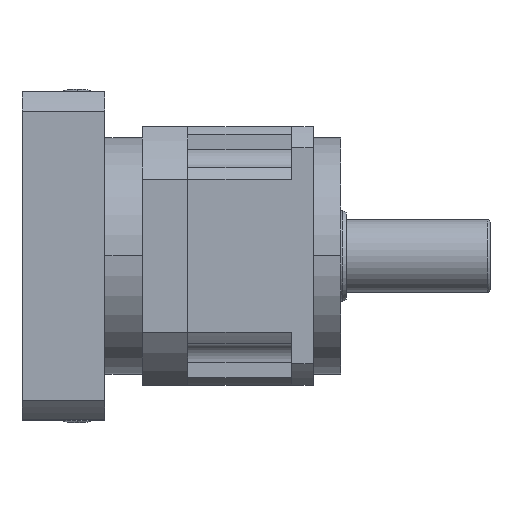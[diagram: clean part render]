
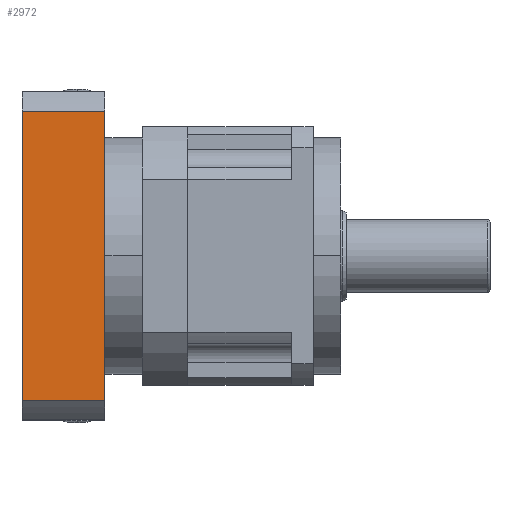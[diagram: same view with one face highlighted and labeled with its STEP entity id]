
A CAD part, top view. The second image highlights one B-rep face of the part: STEP entity #2972.
In plain terms, the highlighted planar face has unit normal (0, 0, 1).
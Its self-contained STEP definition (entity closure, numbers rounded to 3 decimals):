
#360 = FACE_OUTER_BOUND ( 'NONE', #3392, .T. ) ;
#849 = CARTESIAN_POINT ( 'NONE',  ( -91., 79.373, 90. ) ) ;
#2025 = ORIENTED_EDGE ( 'NONE', *, *, #7895, .F. ) ;
#2075 = DIRECTION ( 'NONE',  ( 0., 1., 0. ) ) ;
#2131 = DIRECTION ( 'NONE',  ( -1., 0., 0. ) ) ;
#2972 = ADVANCED_FACE ( 'NONE', ( #360 ), #6397, .F. ) ;
#3292 = EDGE_CURVE ( 'NONE', #12357, #14411, #3523, .T. ) ;
#3392 = EDGE_LOOP ( 'NONE', ( #6594, #2025, #5119, #18687 ) ) ;
#3523 = LINE ( 'NONE', #7277, #10827 ) ;
#3544 = CARTESIAN_POINT ( 'NONE',  ( -91., 0., 90. ) ) ;
#3556 = LINE ( 'NONE', #3544, #13819 ) ;
#4838 = LINE ( 'NONE', #849, #8235 ) ;
#5119 = ORIENTED_EDGE ( 'NONE', *, *, #13370, .F. ) ;
#5184 = DIRECTION ( 'NONE',  ( 1., 0., 0. ) ) ;
#6397 = PLANE ( 'NONE',  #12685 ) ;
#6594 = ORIENTED_EDGE ( 'NONE', *, *, #3292, .F. ) ;
#6881 = CARTESIAN_POINT ( 'NONE',  ( -91., 79.373, 90. ) ) ;
#7277 = CARTESIAN_POINT ( 'NONE',  ( -45.5, 87.617, 90. ) ) ;
#7895 = EDGE_CURVE ( 'NONE', #15392, #12357, #4838, .T. ) ;
#7907 = VECTOR ( 'NONE', #2131, 1000. ) ;
#8235 = VECTOR ( 'NONE', #5184, 1000. ) ;
#8736 = DIRECTION ( 'NONE',  ( 0., -1., 0. ) ) ;
#9330 = DIRECTION ( 'NONE',  ( 0., 1., 0. ) ) ;
#10187 = CARTESIAN_POINT ( 'NONE',  ( -45.5, -79.373, 90. ) ) ;
#10814 = CARTESIAN_POINT ( 'NONE',  ( -91., -79.373, 90. ) ) ;
#10827 = VECTOR ( 'NONE', #8736, 1000. ) ;
#12250 = CARTESIAN_POINT ( 'NONE',  ( -45.5, 79.373, 90. ) ) ;
#12357 = VERTEX_POINT ( 'NONE', #12250 ) ;
#12685 = AXIS2_PLACEMENT_3D ( 'NONE', #16610, #18081, #9330 ) ;
#13370 = EDGE_CURVE ( 'NONE', #16168, #15392, #3556, .T. ) ;
#13471 = CARTESIAN_POINT ( 'NONE',  ( -91., -79.373, 90. ) ) ;
#13819 = VECTOR ( 'NONE', #2075, 1000. ) ;
#14411 = VERTEX_POINT ( 'NONE', #10187 ) ;
#15392 = VERTEX_POINT ( 'NONE', #6881 ) ;
#15661 = LINE ( 'NONE', #10814, #7907 ) ;
#16168 = VERTEX_POINT ( 'NONE', #13471 ) ;
#16574 = EDGE_CURVE ( 'NONE', #14411, #16168, #15661, .T. ) ;
#16610 = CARTESIAN_POINT ( 'NONE',  ( -45.5, 87.617, 90. ) ) ;
#18081 = DIRECTION ( 'NONE',  ( 0., 0., -1. ) ) ;
#18687 = ORIENTED_EDGE ( 'NONE', *, *, #16574, .F. ) ;
